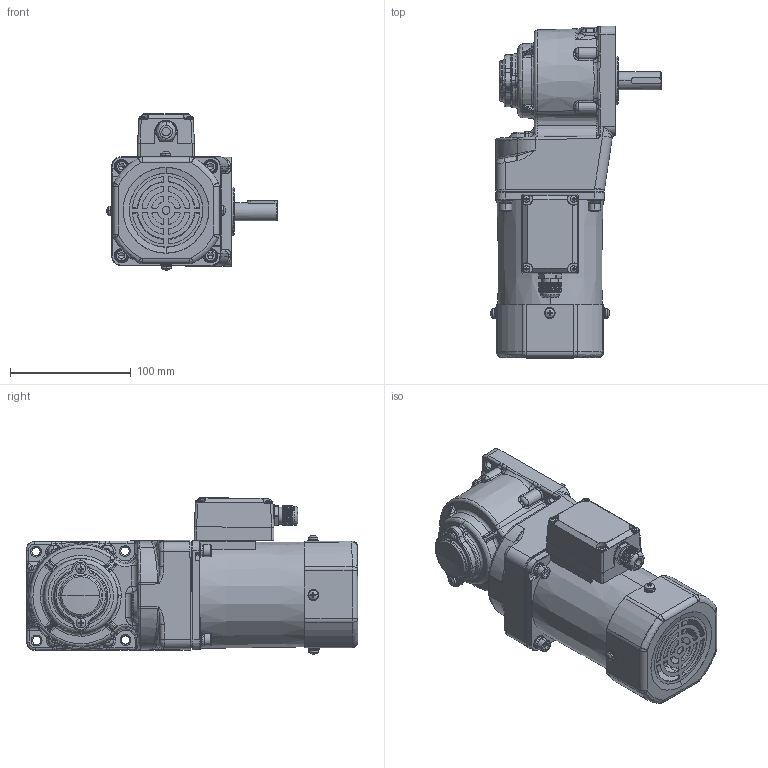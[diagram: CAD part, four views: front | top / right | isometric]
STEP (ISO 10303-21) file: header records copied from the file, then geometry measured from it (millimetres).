
FILE_DESCRIPTION (( 'STEP AP203' ), '1' );
FILE_NAME ('5IK60RGU-CFT(5GU3RT-180RT)ÐÂ.STEP', '2023-08-17T07:15:48', ( 'Windows User' ), ( 'P R C' ), 'SwSTEP 2.0', 'SolidWorks 2019', '' );
FILE_SCHEMA (( 'CONFIG_CONTROL_DESIGN' ));
Length unit declared in the file: millimetre
Products named in the file (10): cross recessed pan head screws gb_GB_CROSS_SCREWS_TYPE1 M4X6-6  H type-N^5IK60RGU-CFT(5GU3RT-180RT)ÐÂ(2)_5IK60RGU-CFT(5GU3RT-180RT)ÐÂ; 90__________^5IK60RGU-CFT(5GU3RT-180RT)陔(2)_5IK60RGU-CFT(5GU3RT-180RT)陔; 5IK60RGU-CFT(5GU3RT-180RT)^5IK60RGU-CFT(5GU3RT-180RT)ÐÂ(2)_5IK60RGU-CFT(5GU3RT-180RT)ÐÂ; 5IK60RGU-CFT(5GU3RT-180RT)陔; 5IK60RGU-CFT(5GU3RT-180RT)陔(2)^5IK60RGU-CFT(5GU3RT-180RT)陔; 90____^5IK60RGU-CFT(5GU3RT-180RT)陔(2)_5IK60RGU-CFT(5GU3RT-180RT)陔; 90RT____________^5IK60RGU-CFT(5GU3RT-180RT)ÐÂ(2)_5IK60RGU-CFT(5GU3RT-180RT)ÐÂ; hexagon socket head cap screws gb_GB_FASTENER_SCREWS_HSHCS M5X12-N^5IK60RGU-CFT(5GU3RT-180RT)ÐÂ(2)_5IK60RGU-CFT(5GU3RT-180RT)ÐÂ; ZD-5GU50RC-505-003______^5IK60RGU-CFT(5GU3RT-180RT)陔(2)_5IK60RGU-CFT(5GU3RT-180RT)陔; zd-5gu-50rc-504-001m#________ 2021-12-07 - ____^5IK60RGU-CFT(5GU3RT-180RT)ÐÂ(2)_5IK60RGU-CFT(5GU3RT-180RT)ÐÂ
Assembly tree (13 placements, depth 3):
  5IK60RGU-CFT(5GU3RT-180RT)陔
    5IK60RGU-CFT(5GU3RT-180RT)陔(2)^5IK60RGU-CFT(5GU3RT-180RT)陔
      zd-5gu-50rc-504-001m#________ 2021-12-07 - ____^5IK60RGU-CFT(5GU3RT-180RT)ÐÂ(2)_5IK60RGU-CFT(5GU3RT-180RT)ÐÂ
      90__________^5IK60RGU-CFT(5GU3RT-180RT)陔(2)_5IK60RGU-CFT(5GU3RT-180RT)陔
      90____^5IK60RGU-CFT(5GU3RT-180RT)陔(2)_5IK60RGU-CFT(5GU3RT-180RT)陔
      ZD-5GU50RC-505-003______^5IK60RGU-CFT(5GU3RT-180RT)陔(2)_5IK60RGU-CFT(5GU3RT-180RT)陔
      90RT____________^5IK60RGU-CFT(5GU3RT-180RT)ÐÂ(2)_5IK60RGU-CFT(5GU3RT-180RT)ÐÂ
      hexagon socket head cap screws gb_GB_FASTENER_SCREWS_HSHCS M5X12-N^5IK60RGU-CFT(5GU3RT-180RT)ÐÂ(2)_5IK60RGU-CFT(5GU3RT-180RT)ÐÂ  x4
      cross recessed pan head screws gb_GB_CROSS_SCREWS_TYPE1 M4X6-6  H type-N^5IK60RGU-CFT(5GU3RT-180RT)ÐÂ(2)_5IK60RGU-CFT(5GU3RT-180RT)ÐÂ  x2
      5IK60RGU-CFT(5GU3RT-180RT)^5IK60RGU-CFT(5GU3RT-180RT)ÐÂ(2)_5IK60RGU-CFT(5GU3RT-180RT)ÐÂ
Bounding box: 141.06 x 274.46 x 129.18 mm (x, y, z)
Volume: 1639963.6 mm3; surface area: 237927.2 mm2
Topology: 52 solids, 52 shells, 3237 faces, 8014 edges, 4814 vertices
Faces by surface type: cylinder 898, plane 839, cone 827, bspline 572, torus 91, sphere 10
Entity records: 125358 total; most frequent: CARTESIAN_POINT 54682, ORIENTED_EDGE 15260, DIRECTION 13796, EDGE_CURVE 7630, AXIS2_PLACEMENT_3D 5520, VERTEX_POINT 4672, EDGE_LOOP 3310, ADVANCED_FACE 3137
